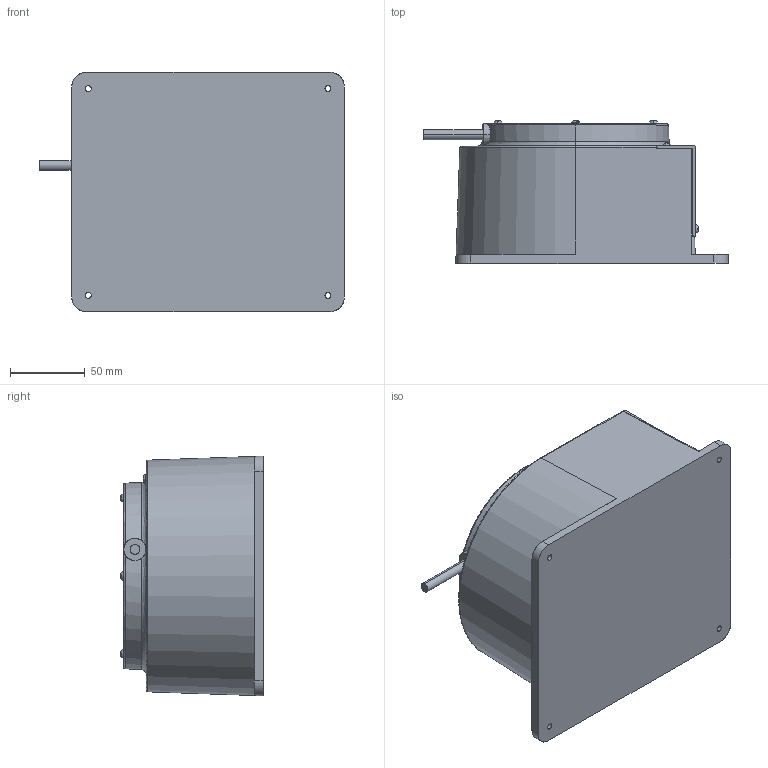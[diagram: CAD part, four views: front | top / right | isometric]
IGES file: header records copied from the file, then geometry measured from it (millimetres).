
Start section: SolidWorks IGES file using analytic representation for surfaces
Bounding box: 203.5 x 95.2 x 160 mm (x, y, z)
Surface area: 113365.7 mm2 (no closed solid volume)
Topology: 0 solids, 0 shells, 231 faces, 3339 edges, 3338 vertices
Faces by surface type: bspline 146, revolution 85
